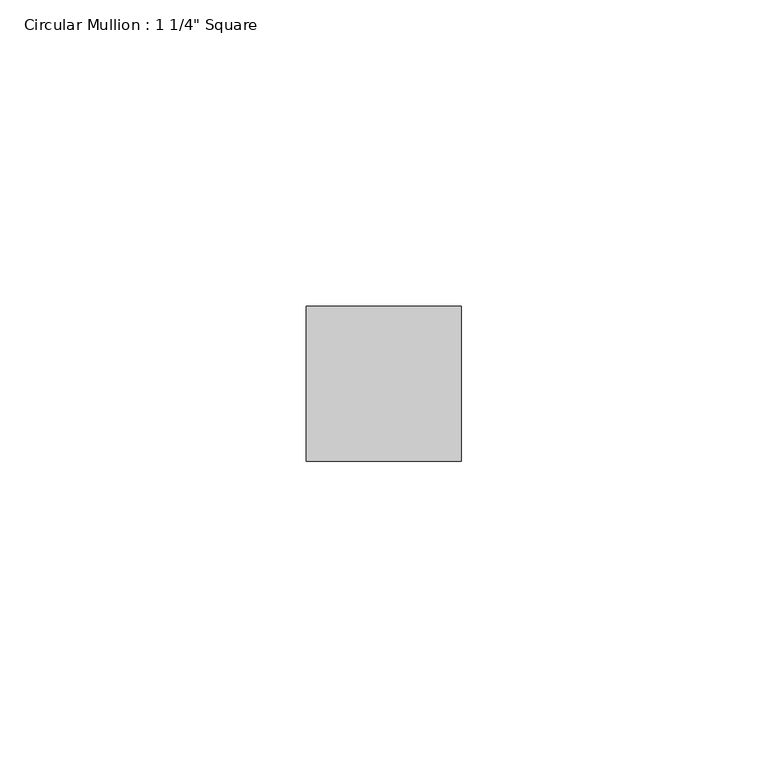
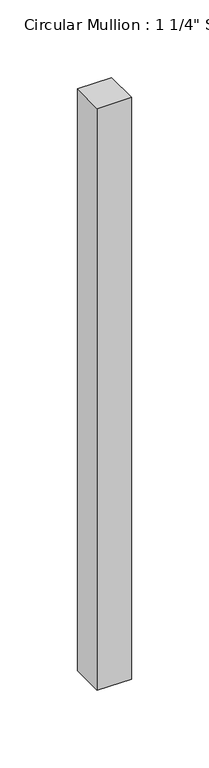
"""IFC4 building model written with IfcOpenShell, lengths in millimetres: member geometry."""

from ifc_helpers import new_model, si_unit, frame, origin, place, context, project, spatial, polyline, outline, extrude, source, transform, mapped, element, save


def member_038dcf1c(model_context):
    return source(origin(), model_context, "Body", "SweptSolid", [
        extrude(outline(polyline([(0.0, 12.7), (0.0, -12.7), (-25.4, -12.7), (-25.4, 12.7), (0.0, 12.7)])), frame((0.0, 0.0, -457.2), z_axis=(0.0, 0.0, 1.0), x_axis=(1.0, 0.0, 0.0)), (0.0, 0.0, 1.0), 457.2),
    ])


if __name__ == "__main__":
    model = new_model("IFC4")
    model_context = context("Model", 3, world=origin())
    ifc_project = project(units=[si_unit("LENGTHUNIT", "METRE", prefix="MILLI")], contexts=[model_context])
    site = spatial("IfcSite", under=ifc_project)
    building = spatial("IfcBuilding", under=site)
    placement = place(None, origin())
    member_shape = member_038dcf1c(model_context)
    element("IfcMember", 1, ObjectType="Circular Mullion : 1 1/4\" Square", at=placement, inside=building, context=model_context, shape_type="MappedRepresentation", body=[
        mapped(member_shape, transform((0.0, 0.0, 0.0), x_axis=(1.0, 0.0, 0.0), y_axis=(0.0, 1.0, 0.0), z_axis=(0.0, 0.0, 1.0))),
    ])
    save(model, "model.ifc")
